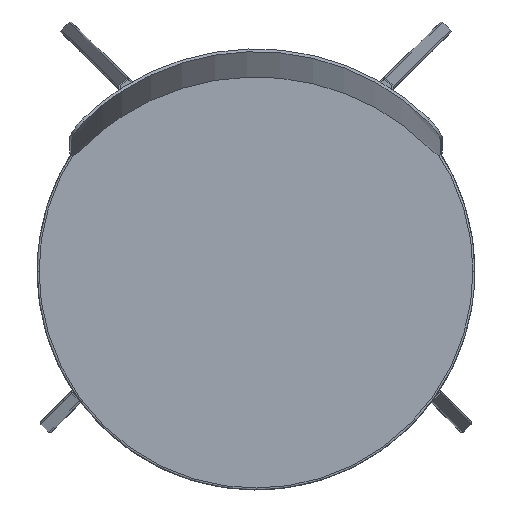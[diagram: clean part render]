
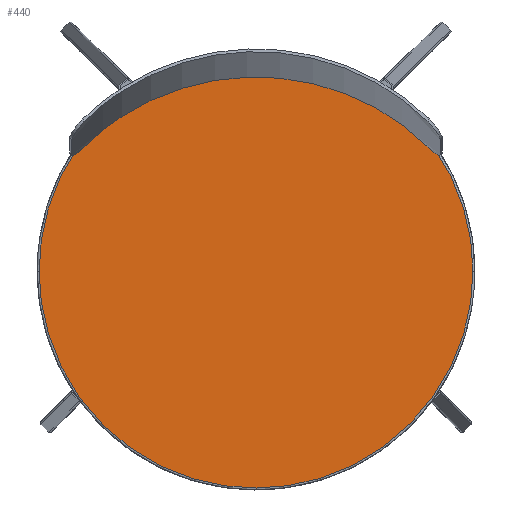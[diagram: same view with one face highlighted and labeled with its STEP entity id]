
A CAD part, top view. The second image highlights one B-rep face of the part: STEP entity #440.
In plain terms, the highlighted planar face has unit normal (0, 0, 1).
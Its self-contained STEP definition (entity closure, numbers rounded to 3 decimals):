
#440=ADVANCED_FACE('',(#599),#2363,.T.);
#599=FACE_OUTER_BOUND('',#759,.T.);
#759=EDGE_LOOP('',(#932,#933));
#932=ORIENTED_EDGE('',*,*,#1687,.T.);
#933=ORIENTED_EDGE('',*,*,#1697,.T.);
#1687=EDGE_CURVE('',#2114,#2120,#2067,.T.);
#1697=EDGE_CURVE('',#2120,#2114,#2077,.T.);
#2067=(
BOUNDED_CURVE()
B_SPLINE_CURVE(2,(#2793,#2794,#2795,#2796,#2797),.UNSPECIFIED.,.F.,.F.)
B_SPLINE_CURVE_WITH_KNOTS((3,2,3),(0.,350.287,700.575),
 .UNSPECIFIED.)
CURVE()
GEOMETRIC_REPRESENTATION_ITEM()
RATIONAL_B_SPLINE_CURVE((1.,0.707,1.,0.707,1.))
REPRESENTATION_ITEM('')
);
#2077=(
BOUNDED_CURVE()
B_SPLINE_CURVE(2,(#2833,#2834,#2835,#2836,#2837),.UNSPECIFIED.,.F.,.F.)
B_SPLINE_CURVE_WITH_KNOTS((3,2,3),(700.575,1050.862,1401.149),
 .UNSPECIFIED.)
CURVE()
GEOMETRIC_REPRESENTATION_ITEM()
RATIONAL_B_SPLINE_CURVE((1.,0.707,1.,0.707,1.))
REPRESENTATION_ITEM('')
);
#2114=VERTEX_POINT('',#2751);
#2120=VERTEX_POINT('',#2757);
#2363=PLANE('',#2502);
#2502=AXIS2_PLACEMENT_3D('',#2665,#2573,$);
#2573=DIRECTION('',(0.,0.,1.));
#2665=CARTESIAN_POINT('',(266.304,261.51,512.));
#2751=CARTESIAN_POINT('',(-237.946,-19.74,512.));
#2757=CARTESIAN_POINT('',(208.054,-19.74,512.));
#2793=CARTESIAN_POINT('',(-237.946,-19.74,512.));
#2794=CARTESIAN_POINT('',(-237.946,-242.74,512.));
#2795=CARTESIAN_POINT('',(-14.946,-242.74,512.));
#2796=CARTESIAN_POINT('',(208.054,-242.74,512.));
#2797=CARTESIAN_POINT('',(208.054,-19.74,512.));
#2833=CARTESIAN_POINT('',(208.054,-19.74,512.));
#2834=CARTESIAN_POINT('',(208.054,203.26,512.));
#2835=CARTESIAN_POINT('',(-14.946,203.26,512.));
#2836=CARTESIAN_POINT('',(-237.946,203.26,512.));
#2837=CARTESIAN_POINT('',(-237.946,-19.74,512.));
